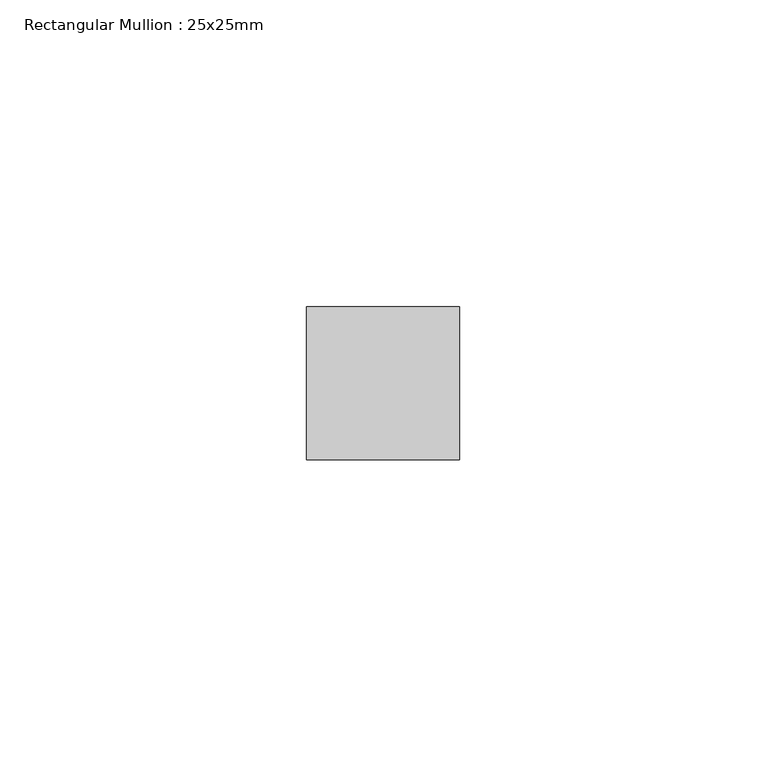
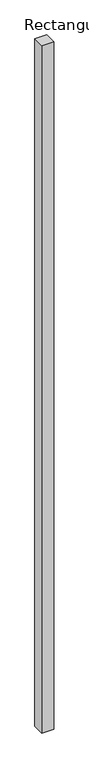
"""IFC4 building model written with IfcOpenShell, lengths in millimetres: member geometry, Rectangular Mullion : 25x25mm."""

from ifc_helpers import new_model, si_unit, frame, origin, place, context, project, spatial, polyline, outline, extrude, source, transform, mapped, element, save


def rectangular_mullion_25x25mm_3039a083(model_context):
    return source(origin(), model_context, "Body", "SweptSolid", [
        extrude(outline(polyline([(12.5, 24.5), (12.5, -0.5), (-12.5, -0.5), (-12.5, 24.5), (12.5, 24.5)])), frame((0.0, 0.0, -1533.9285714), z_axis=(0.0, 0.0, 1.0), x_axis=(1.0, 0.0, 0.0)), (0.0, 0.0, 1.0), 1533.9285714),
    ])


if __name__ == "__main__":
    model = new_model("IFC4")
    model_context = context("Model", 3, world=origin())
    ifc_project = project(units=[si_unit("LENGTHUNIT", "METRE", prefix="MILLI")], contexts=[model_context])
    site = spatial("IfcSite", under=ifc_project)
    building = spatial("IfcBuilding", under=site)
    placement = place(None, origin())
    rectangular_mullion_25x25mm_shape = rectangular_mullion_25x25mm_3039a083(model_context)
    element("IfcMember", 1, ObjectType="Rectangular Mullion : 25x25mm", at=placement, inside=building, context=model_context, shape_type="MappedRepresentation", body=[
        mapped(rectangular_mullion_25x25mm_shape, transform((0.0, 0.0, 0.0), x_axis=(1.0, 0.0, 0.0), y_axis=(0.0, 1.0, 0.0), z_axis=(0.0, 0.0, 1.0))),
    ])
    save(model, "model.ifc")
